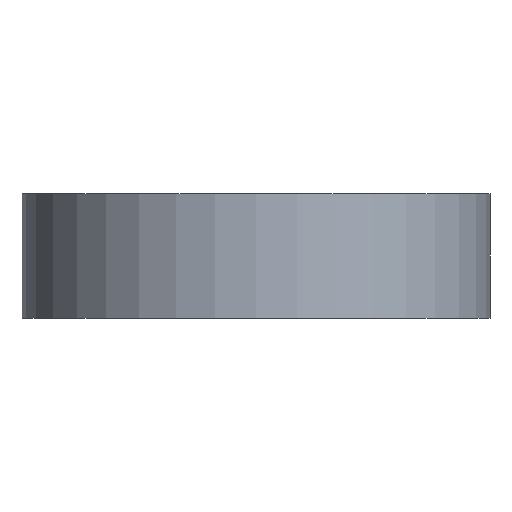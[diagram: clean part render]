
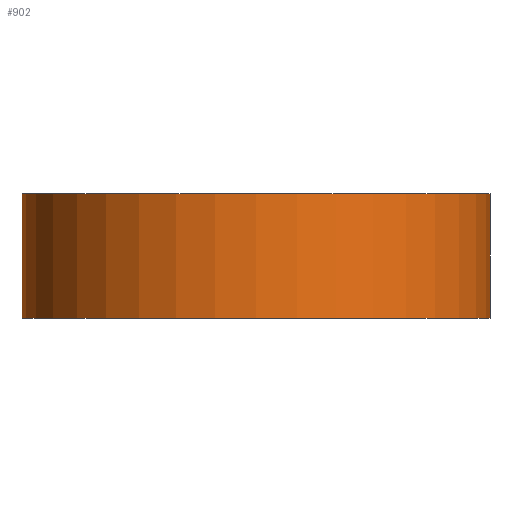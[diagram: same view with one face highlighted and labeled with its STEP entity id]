
A CAD part, front view. The second image highlights one B-rep face of the part: STEP entity #902.
In plain terms, the highlighted cylindrical face has radius 42.495 mm (diameter 84.99 mm), a full revolution.
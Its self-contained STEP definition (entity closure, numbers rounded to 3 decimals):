
#76=CIRCLE('',#1006,42.495);
#77=CIRCLE('',#1007,42.495);
#97=CYLINDRICAL_SURFACE('',#1005,42.495);
#146=FACE_OUTER_BOUND('',#205,.T.);
#205=EDGE_LOOP('',(#779,#780,#781,#782));
#302=LINE('',#1522,#382);
#382=VECTOR('',#1267,42.495);
#461=VERTEX_POINT('',#1519);
#462=VERTEX_POINT('',#1521);
#580=EDGE_CURVE('',#461,#461,#76,.T.);
#581=EDGE_CURVE('',#461,#462,#302,.T.);
#582=EDGE_CURVE('',#462,#462,#77,.T.);
#779=ORIENTED_EDGE('',*,*,#580,.F.);
#780=ORIENTED_EDGE('',*,*,#581,.T.);
#781=ORIENTED_EDGE('',*,*,#582,.T.);
#782=ORIENTED_EDGE('',*,*,#581,.F.);
#902=ADVANCED_FACE('',(#146),#97,.T.);
#1005=AXIS2_PLACEMENT_3D('',#1518,#1263,#1264);
#1006=AXIS2_PLACEMENT_3D('',#1520,#1265,#1266);
#1007=AXIS2_PLACEMENT_3D('',#1523,#1268,#1269);
#1263=DIRECTION('center_axis',(0.,0.,1.));
#1264=DIRECTION('ref_axis',(1.,0.,0.));
#1265=DIRECTION('center_axis',(0.,0.,1.));
#1266=DIRECTION('ref_axis',(1.,0.,0.));
#1267=DIRECTION('',(0.,0.,-1.));
#1268=DIRECTION('center_axis',(0.,0.,1.));
#1269=DIRECTION('ref_axis',(1.,0.,0.));
#1518=CARTESIAN_POINT('Origin',(0.,0.,21.27));
#1519=CARTESIAN_POINT('',(-42.495,0.,43.88));
#1520=CARTESIAN_POINT('Origin',(0.,0.,43.88));
#1521=CARTESIAN_POINT('',(-42.495,0.,21.27));
#1522=CARTESIAN_POINT('',(-42.495,0.,21.27));
#1523=CARTESIAN_POINT('Origin',(0.,0.,21.27));
